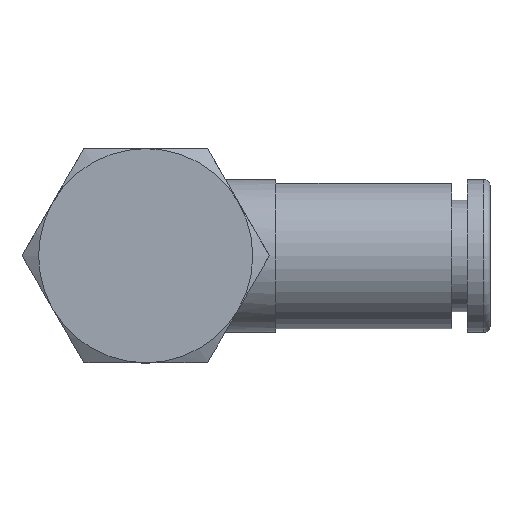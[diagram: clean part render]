
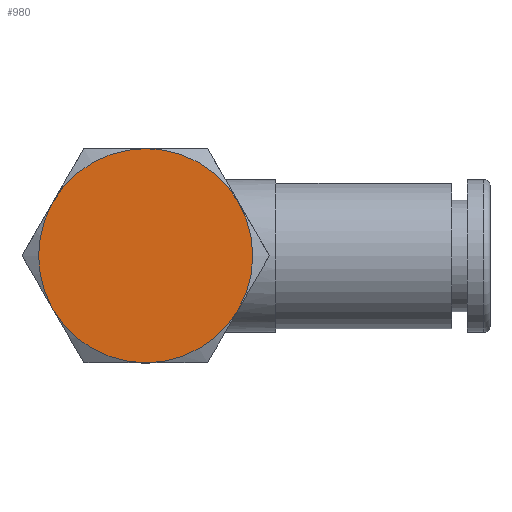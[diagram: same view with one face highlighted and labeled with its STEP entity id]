
A CAD part, top view. The second image highlights one B-rep face of the part: STEP entity #980.
In plain terms, the highlighted planar face has unit normal (0, 0, 1).
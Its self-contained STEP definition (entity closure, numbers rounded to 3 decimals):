
#980=ADVANCED_FACE('', (#990), #1000, .T.);
#5020=AXIS2_PLACEMENT_3D('Ax2Pl3d', #5030, #5040, #5050);
#5100=AXIS2_PLACEMENT_3D('Ax2Pl3d', #5110, #5120, #5130);
#5180=AXIS2_PLACEMENT_3D('Ax2Pl3d', #5190, #5200, #5210);
#5260=AXIS2_PLACEMENT_3D('Ax2Pl3d', #5270, #5280, #5290);
#5340=AXIS2_PLACEMENT_3D('Ax2Pl3d', #5350, #5360, #5370);
#5420=AXIS2_PLACEMENT_3D('Ax2Pl3d', #5430, #5440, #5450);
#5460=AXIS2_PLACEMENT_3D('Ax2Pl3d', #5470, #5480, #5490);
#52290=CARTESIAN_POINT('', (8.049,20.843,35.743));
#52470=CARTESIAN_POINT('', (14.111,24.343,35.743));
#52500=CARTESIAN_POINT('', (20.173,20.843,35.743));
#52530=CARTESIAN_POINT('', (20.173,13.843,35.743))
;
#52560=CARTESIAN_POINT('', (14.111,10.343,35.743));
#52590=CARTESIAN_POINT('', (8.049,13.843,35.743))
;
#5030=CARTESIAN_POINT('HicPkt', (14.111,17.343,
35.743));
#5110=CARTESIAN_POINT('HicPkt', (14.111,17.343,
35.743));
#5190=CARTESIAN_POINT('HicPkt', (14.111,17.343,
35.743));
#5270=CARTESIAN_POINT('HicPkt', (14.111,17.343,
35.743));
#5350=CARTESIAN_POINT('HicPkt', (14.111,17.343,
35.743));
#5430=CARTESIAN_POINT('HicPkt', (14.111,17.343,
35.743));
#5470=CARTESIAN_POINT('HicPkt', (20.173,13.843,
35.743));
#53580=CIRCLE('Circle', #5020, 7.);
#53590=CIRCLE('Circle', #5100, 7.);
#53600=CIRCLE('Circle', #5180, 7.);
#53610=CIRCLE('Circle', #5260, 7.);
#53620=CIRCLE('Circle', #5340, 7.);
#53630=CIRCLE('Circle', #5420, 7.);
#5040=DIRECTION('Axis', (0.,0.,-1.));
#5050=DIRECTION('RefDirection', (-1.,-0.,0.));
#5120=DIRECTION('Axis', (0.,0.,-1.));
#5130=DIRECTION('RefDirection', (-1.,-0.,0.));
#5200=DIRECTION('Axis', (0.,0.,-1.));
#5210=DIRECTION('RefDirection', (-1.,-0.,0.));
#5280=DIRECTION('Axis', (0.,0.,-1.));
#5290=DIRECTION('RefDirection', (-1.,-0.,0.));
#5360=DIRECTION('Axis', (0.,0.,-1.));
#5370=DIRECTION('RefDirection', (-1.,-0.,0.));
#5440=DIRECTION('Axis', (0.,0.,-1.));
#5450=DIRECTION('RefDirection', (-1.,-0.,0.));
#5480=DIRECTION('Axis', (0.,0.,1.));
#5490=DIRECTION('RefDirection', (1.,0.,-0.));
#59540=EDGE_CURVE('', #59520, #58990, #53580, .T.);
#59550=EDGE_CURVE('', #58990, #59280, #53590, .T.);
#59560=EDGE_CURVE('', #59280, #59340, #53600, .T.);
#59570=EDGE_CURVE('', #59340, #59400, #53610, .T.);
#59580=EDGE_CURVE('', #59400, #59460, #53620, .T.);
#59590=EDGE_CURVE('', #59460, #59520, #53630, .T.);
#62430=EDGE_LOOP('Edge_loop', (#62440,#62450,#62460,#62470,#62480,
#62490));
#990=FACE_OUTER_BOUND('Face_outer_bound', #62430, .T.);
#62440=ORIENTED_EDGE('', *, *, #59580, .F.);
#62450=ORIENTED_EDGE('', *, *, #59570, .F.);
#62460=ORIENTED_EDGE('', *, *, #59560, .F.);
#62470=ORIENTED_EDGE('', *, *, #59550, .F.);
#62480=ORIENTED_EDGE('', *, *, #59540, .F.);
#62490=ORIENTED_EDGE('', *, *, #59590, .F.);
#1000=PLANE('Plane', #5460);
#58990=VERTEX_POINT('', #52290);
#59280=VERTEX_POINT('', #52470);
#59340=VERTEX_POINT('', #52500);
#59400=VERTEX_POINT('', #52530);
#59460=VERTEX_POINT('', #52560);
#59520=VERTEX_POINT('', #52590);
